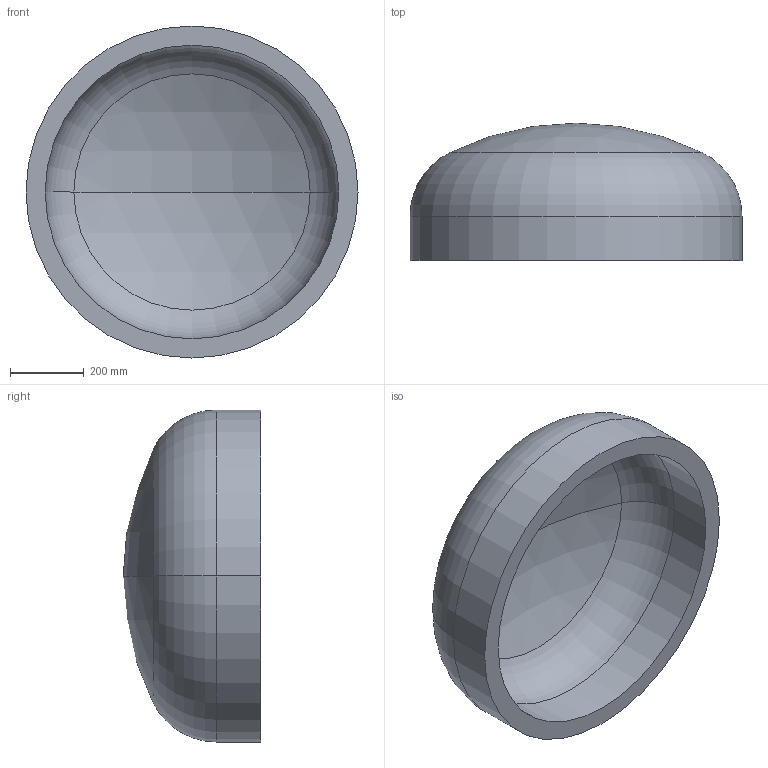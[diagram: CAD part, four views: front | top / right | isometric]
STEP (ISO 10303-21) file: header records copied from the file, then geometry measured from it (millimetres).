
FILE_DESCRIPTION (( 'STEP AP203' ), '1' );
FILE_NAME ('DIN 28013 Korbbogenform_-_Boden DIN 28013 - 900 x 120 - I - s=52.step', '2016-07-01T08:33:38', ( '' ), ( '' ), 'SwSTEP 2.0', 'SolidWorks 2013', '' );
FILE_SCHEMA (( 'CONFIG_CONTROL_DESIGN' ));
Length unit declared in the file: millimetre
Products named in the file (1): DIN 28013 Korbbogenform_-_Boden DIN 28013 - 900 x 120 - I - s=52
Bounding box: 900 x 372.54 x 900 mm (x, y, z)
Volume: 59270405.8 mm3; surface area: 2423825.5 mm2
Topology: 1 solids, 1 shells, 13 faces, 24 edges, 14 vertices
Faces by surface type: torus 4, cylinder 4, sphere 4, plane 1
Entity records: 407 total; most frequent: DIRECTION 72, CARTESIAN_POINT 52, ORIENTED_EDGE 48, AXIS2_PLACEMENT_3D 34, EDGE_CURVE 24, CIRCLE 20, EDGE_LOOP 14, VERTEX_POINT 14
